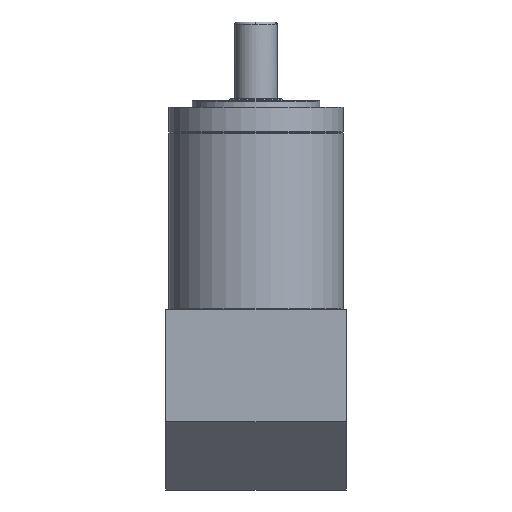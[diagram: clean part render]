
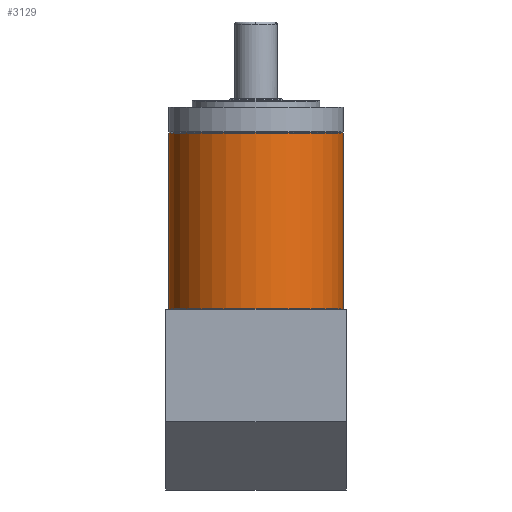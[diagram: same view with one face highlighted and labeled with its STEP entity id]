
A CAD part, left-side view. The second image highlights one B-rep face of the part: STEP entity #3129.
In plain terms, the highlighted cylindrical face has radius 41 mm (diameter 82 mm), a partial arc.
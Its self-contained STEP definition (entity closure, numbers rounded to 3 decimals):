
#2975=CARTESIAN_POINT('',(0.3,0.,0.));
#2976=DIRECTION('',(-1.,0.,0.));
#2977=DIRECTION('',(0.,0.,-1.));
#2978=AXIS2_PLACEMENT_3D('',#2975,#2976,#2977);
#2980=DIRECTION('',(-1.,0.,0.));
#2981=VECTOR('',#2980,82.4);
#2982=CARTESIAN_POINT('',(82.7,0.,41.));
#2983=LINE('',#2982,#2981);
#2984=DIRECTION('',(-1.,0.,0.));
#2985=VECTOR('',#2984,82.4);
#2986=CARTESIAN_POINT('',(82.7,0.,-41.));
#2987=LINE('',#2986,#2985);
#3021=CARTESIAN_POINT('',(82.7,0.,0.));
#3022=DIRECTION('',(1.,0.,0.));
#3023=DIRECTION('',(0.,0.,1.));
#3024=AXIS2_PLACEMENT_3D('',#3021,#3022,#3023);
#3030=CARTESIAN_POINT('',(0.3,0.,41.));
#3031=CARTESIAN_POINT('',(0.3,0.,-41.));
#3032=VERTEX_POINT('',#3030);
#3033=VERTEX_POINT('',#3031);
#3034=CARTESIAN_POINT('',(82.7,0.,-41.));
#3036=VERTEX_POINT('',#3034);
#3052=CARTESIAN_POINT('',(82.7,0.,41.));
#3053=VERTEX_POINT('',#3052);
#3115=CARTESIAN_POINT('',(0.,0.,0.));
#3116=DIRECTION('',(1.,0.,0.));
#3117=DIRECTION('',(0.,0.,-1.));
#3118=AXIS2_PLACEMENT_3D('',#3115,#3116,#3117);
#3119=CYLINDRICAL_SURFACE('',#3118,41.);
#3121=ORIENTED_EDGE('',*,*,#3120,.F.);
#3123=ORIENTED_EDGE('',*,*,#3122,.T.);
#3125=ORIENTED_EDGE('',*,*,#3124,.T.);
#3126=ORIENTED_EDGE('',*,*,#3108,.T.);
#3127=EDGE_LOOP('',(#3121,#3123,#3125,#3126));
#3128=FACE_OUTER_BOUND('',#3127,.F.);
#3129=ADVANCED_FACE('',(#3128),#3119,.T.);
#2979=CIRCLE('',#2978,41.);
#3025=CIRCLE('',#3024,41.);
#3108=EDGE_CURVE('',#3033,#3032,#2979,.T.);
#3120=EDGE_CURVE('',#3053,#3032,#2983,.T.);
#3122=EDGE_CURVE('',#3053,#3036,#3025,.T.);
#3124=EDGE_CURVE('',#3036,#3033,#2987,.T.);
